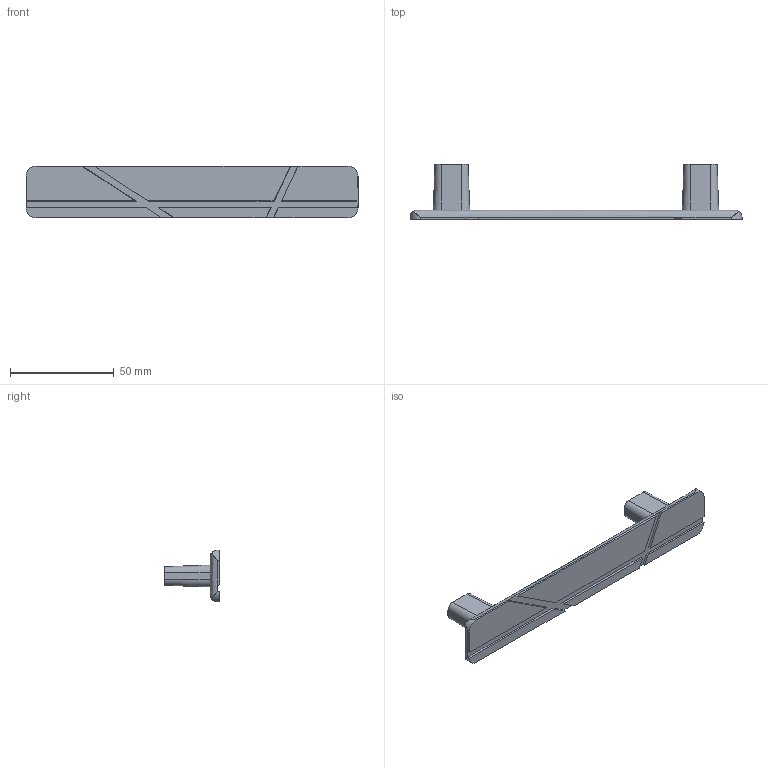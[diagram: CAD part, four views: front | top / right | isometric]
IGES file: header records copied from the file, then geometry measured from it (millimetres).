
Start section: Data from Parasolid IGES Translator 15.0.47, Copyright(c) 2006 Siemens P LM Software. All Rights Reserved.
Global section: file name: 9082136.igs; native system:  By UGS Corp.; preprocessor: XPlus GENERIC/IGES 3.0; author: Noname; organization: Noname; date: 20140123.103629; units: millimetre
Bounding box: 160 x 26.5 x 25 mm (x, y, z)
Surface area: 12054.2 mm2 (no closed solid volume)
Topology: 0 solids, 0 shells, 64 faces, 316 edges, 313 vertices
Faces by surface type: extrusion 44, revolution 20
